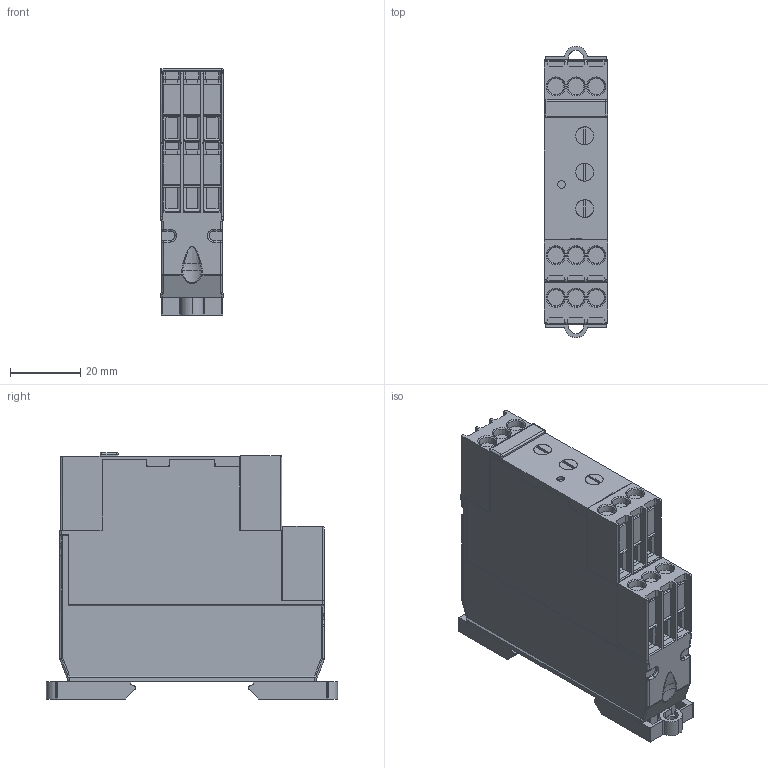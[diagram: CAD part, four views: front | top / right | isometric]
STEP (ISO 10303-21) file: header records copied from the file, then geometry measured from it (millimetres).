
FILE_DESCRIPTION (( 'STEP AP214' ), '1' );
FILE_NAME ('CM3.STEP', '2024-04-15T05:32:00', ( '' ), ( '' ), 'SwSTEP 2.0', 'SolidWorks 2022', '' );
FILE_SCHEMA (( 'AUTOMOTIVE_DESIGN' ));
Length unit declared in the file: millimetre
Products named in the file (1): CM3
Bounding box: 18.14 x 83.2 x 70.55 mm (x, y, z)
Volume: 79521.4 mm3; surface area: 25591.3 mm2
Topology: 1 solids, 2 shells, 899 faces, 2522 edges, 1599 vertices
Faces by surface type: plane 627, cylinder 178, cone 38, sphere 28, bspline 20, torus 8
Entity records: 31181 total; most frequent: CARTESIAN_POINT 6929, ORIENTED_EDGE 4976, DIRECTION 4141, EDGE_CURVE 2488, VECTOR 1725, LINE 1725, VERTEX_POINT 1579, AXIS2_PLACEMENT_3D 1208
